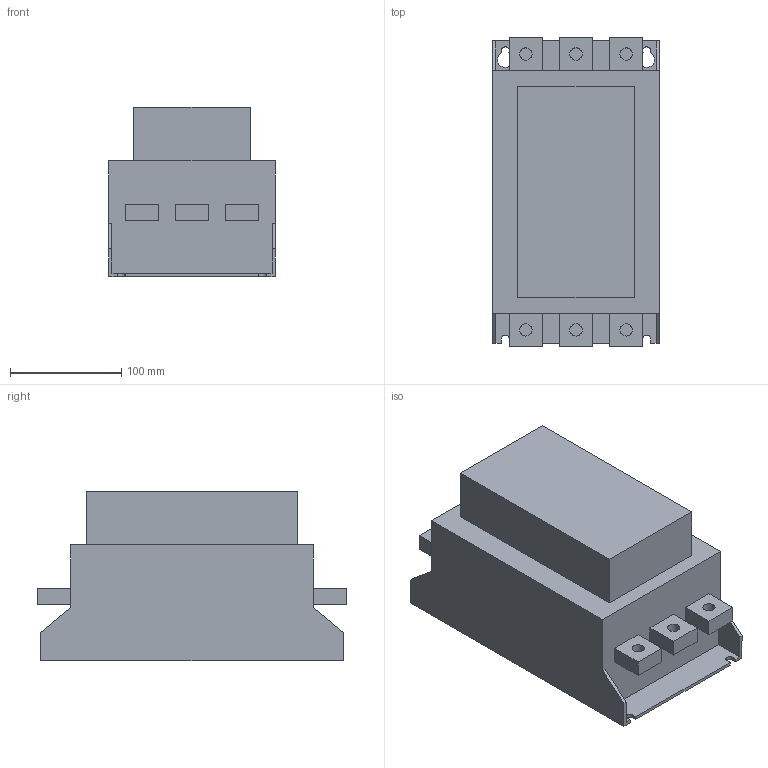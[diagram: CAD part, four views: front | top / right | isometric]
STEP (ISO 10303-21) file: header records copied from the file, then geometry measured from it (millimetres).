
FILE_DESCRIPTION(/* description */ (''),/* implementation_level */ '2;1');
FILE_NAME(/* name */ 'O:\БЭМ\Personal\Абрамов\262-20-1 ТП Драчево\3D Inventor\MCD1\MCD5 F1.stp',/* time_stamp */ '2023-10-11T08:06:31+03:00',/* author */ ('a.abramov'),/* organization */ (''),/* preprocessor_version */ 'ST-DEVELOPER v18.1',/* originating_system */ 'Autodesk Inventor 2022',/* authorisation */ '');
FILE_SCHEMA (('AUTOMOTIVE_DESIGN { 1 0 10303 214 3 1 1 }'));
Length unit declared in the file: millimetre
Products named in the file (1): MCD5 F1
Bounding box: 150 x 278 x 152 mm (x, y, z)
Volume: 4459723.8 mm3; surface area: 211395.6 mm2
Topology: 1 solids, 1 shells, 71 faces, 186 edges, 124 vertices
Faces by surface type: plane 59, cylinder 12
Full cylindrical faces by diameter (mm): 11 x6
Entity records: 2237 total; most frequent: CARTESIAN_POINT 382, ORIENTED_EDGE 372, DIRECTION 354, EDGE_CURVE 186, LINE 162, VECTOR 162, VERTEX_POINT 124, AXIS2_PLACEMENT_3D 96
